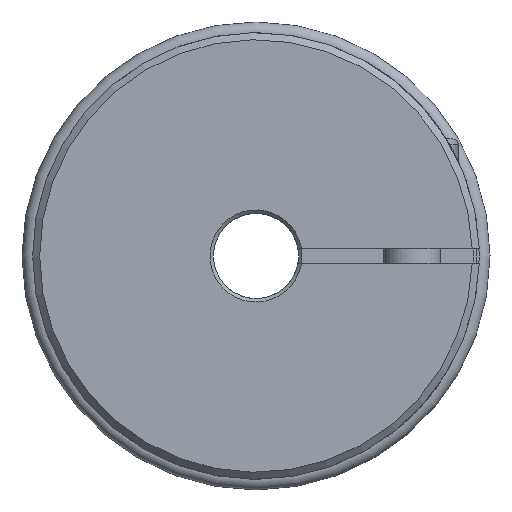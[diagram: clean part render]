
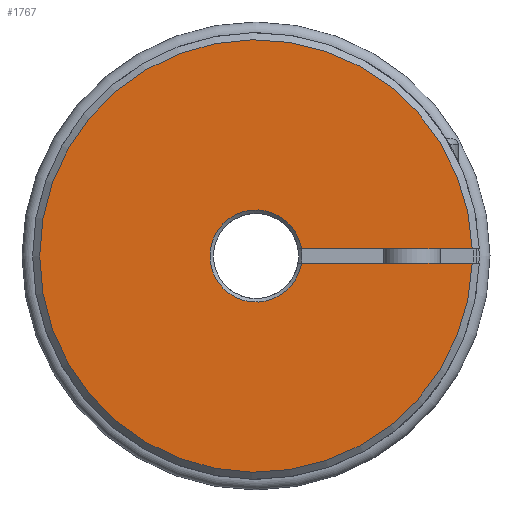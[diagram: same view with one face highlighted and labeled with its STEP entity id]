
A CAD part, left-side view. The second image highlights one B-rep face of the part: STEP entity #1767.
In plain terms, the highlighted planar face has unit normal (-1, 0, 0).
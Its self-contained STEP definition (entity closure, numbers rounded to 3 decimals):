
#114=PLANE('',#1994);
#180=LINE('',#3057,#264);
#181=LINE('',#3061,#265);
#264=VECTOR('',#2455,1000.);
#265=VECTOR('',#2458,1000.);
#531=ORIENTED_EDGE('',*,*,#853,.F.);
#532=ORIENTED_EDGE('',*,*,#854,.F.);
#533=ORIENTED_EDGE('',*,*,#855,.F.);
#534=ORIENTED_EDGE('',*,*,#852,.T.);
#852=EDGE_CURVE('',#1042,#1043,#1183,.T.);
#853=EDGE_CURVE('',#1044,#1043,#180,.T.);
#854=EDGE_CURVE('',#1045,#1044,#1184,.T.);
#855=EDGE_CURVE('',#1042,#1045,#181,.T.);
#1042=VERTEX_POINT('',#3052);
#1043=VERTEX_POINT('',#3054);
#1044=VERTEX_POINT('',#3058);
#1045=VERTEX_POINT('',#3060);
#1183=CIRCLE('',#1993,30.5);
#1184=CIRCLE('',#1995,6.5);
#1371=EDGE_LOOP('',(#531,#532,#533,#534));
#1590=FACE_BOUND('',#1371,.T.);
#1767=ADVANCED_FACE('',(#1590),#114,.T.);
#1993=AXIS2_PLACEMENT_3D('',#3055,#2451,#2452);
#1994=AXIS2_PLACEMENT_3D('',#3056,#2453,#2454);
#1995=AXIS2_PLACEMENT_3D('',#3059,#2456,#2457);
#2451=DIRECTION('',(-1.,0.,0.));
#2452=DIRECTION('',(0.,1.,0.));
#2453=DIRECTION('',(-1.,0.,0.));
#2454=DIRECTION('',(0.,1.,0.));
#2455=DIRECTION('',(0.,-1.,0.));
#2456=DIRECTION('',(-1.,0.,0.));
#2457=DIRECTION('',(0.,1.,0.));
#2458=DIRECTION('',(0.,1.,0.));
#3052=CARTESIAN_POINT('',(-39.768,-30.484,1.));
#3054=CARTESIAN_POINT('',(-39.768,-30.484,-1.));
#3055=CARTESIAN_POINT('',(-39.768,0.,0.));
#3056=CARTESIAN_POINT('',(-39.768,6.,0.));
#3057=CARTESIAN_POINT('',(-39.768,-5.916,-1.));
#3058=CARTESIAN_POINT('',(-39.768,-6.423,-1.));
#3059=CARTESIAN_POINT('',(-39.768,0.,0.));
#3060=CARTESIAN_POINT('',(-39.768,-6.423,1.));
#3061=CARTESIAN_POINT('',(-39.768,-5.916,1.));
